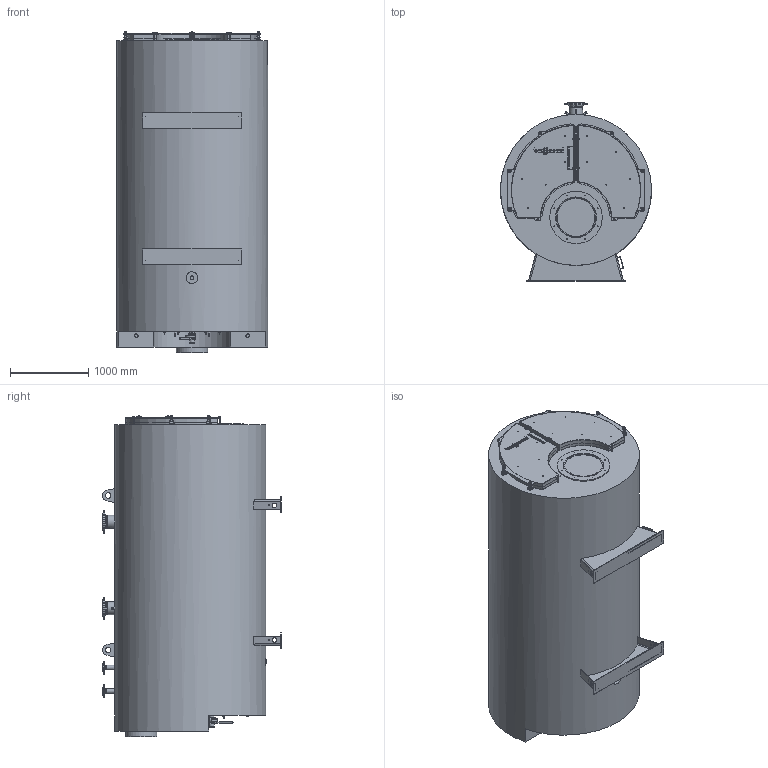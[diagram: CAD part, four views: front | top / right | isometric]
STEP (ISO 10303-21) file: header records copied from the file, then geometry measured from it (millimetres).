
FILE_DESCRIPTION(/* description */ (''),/* implementation_level */ '2;1');
FILE_NAME(/* name */ 'FU0284741_T001.stp',/* time_stamp */ '2017-05-10T11:41:36+02:00',/* author */ (''),/* organization */ (''),/* preprocessor_version */ 'ST-DEVELOPER v16',/* originating_system */ 'SIEMENS PLM Software NX 10.0',/* authorisation */ '');
FILE_SCHEMA (('AUTOMOTIVE_DESIGN { 1 0 10303 214 3 1 1 1 }'));
Length unit declared in the file: millimetre
Products named in the file (107): 5655433_T001; 9024203_T001; 5655434_T001; 5015776_T001; 5639538_T001; 5661386_T004; 9578654_T001; 5661387_T003; 5996316_T001; 5996313_T001; 5996314_T001; 5996315_T001; 9542040_T001; 9542038_T002; 9045119_T001; 5456644_T005; 5656673_T003; 5275142_T005; 5656677_T004; 9589709_T001; 9529527_T001; 5653035_T001; 5653034_T001; 5805752_T001; 6043054_T001; 5653036_T003; 5184434_T003; 5996307_T001; 5996306_T001; 9639650_T001; 5652705_T002; 5656550_T002; 5996387_T001; 5742020_T001; 5742021_T001; 5996360_T001; 5749858_T002; 9649746_T001; 5996281_T001; FU0287854_T002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
Assembly tree (242 placements, depth 6):
  FU0284741_T001
    FU0284742_T001_317894ID
    FU0287031_T001_MODELNX-ARRAGMNT110°C
      7644048_T001_MODELNX-ARRAGMNTTypenschild rechts
        7644049_T001_MODEL  x2
          6041690_T001
          5656779_T003
          6040726_T001
        7582248_T002_MODEL
          5995843_T002
          5752984_T002
          9548563_T001  x4
      FU0268925_T001_MODELNX-ARRAGMNT110°C
        7620440_T006_MODELNX-ARRAGMNTZUSAMMENST1
          5152225_T003
          5152223_T003
        7482141_T001_MODEL
          9017053_T001
          5555561_T001
        7490827_T002_MODEL
          9017054_T001
          5875054_T001  x2
          5875055_T001
        7278199_T006_MODEL
          5744457_T001
          9017052_T001
        5281378_T009  x2
        5157685_T004
        7284176_T007_MODEL
          9017054_T001
          5633913_T005
      7610520_T005_MODEL
        9516387_T001  x4
        5636687_T003  x4
        7610471_T006_MODEL
          7610473_T003_MODEL
            5996315_T001
            5996314_T001
            5996313_T001
            5996316_T001
            5661387_T003
            9578654_T001  x6
          5996280_T001
          5996279_T001
          5996991_T001
          9516963_T001  x6
          FU0287854_T002
          5996281_T001
          9649746_T001
        9501975_T001  x4
        5558237_T005  x2
        9591781_T001  x6
        9801033_T001  x8
        9028008_T001  x8
        9557196_T001  x4
        7583486_T001_MODEL
          5749858_T002  x4
          5996360_T001  x4
          5742021_T001  x2
          5742020_T001  x2
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Bounding box: 1925 x 2277 x 4100 mm (x, y, z)
Volume: 11273788692.8 mm3; surface area: 58126467.7 mm2
Topology: 240 solids, 240 shells, 2847 faces, 6543 edges, 4253 vertices
Faces by surface type: plane 1417, cylinder 828, cone 373, bspline 141, torus 45, extrusion 39, sphere 4
Full cylindrical faces by diameter (mm): 1 x42, 2.2 x4, 3.2 x4, 3.3 x4, 4 x6, 4.6 x4, 5 x4, 6.2 x8, 6.5 x4, 6.647 x12, 7.8 x14, 8 x14, 8.376 x8, 10 x8, 10.106 x9, 10.3 x8, 10.5 x6, 10.77 x8, 10.86 x9, 12 x59, 13 x14, 13.27 x12, 14 x6, 14.63 x8, 15 x13, 15.5 x9, 16 x3, 17.294 x8, 18 x32, 18.63 x2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
Entity records: 49889 total; most frequent: CARTESIAN_POINT 15091, DIRECTION 6144, ORIENTED_EDGE 5594, EDGE_CURVE 2797, AXIS2_PLACEMENT_3D 2446, VERTEX_POINT 2094, EDGE_LOOP 2091, ADVANCED_FACE 1370
